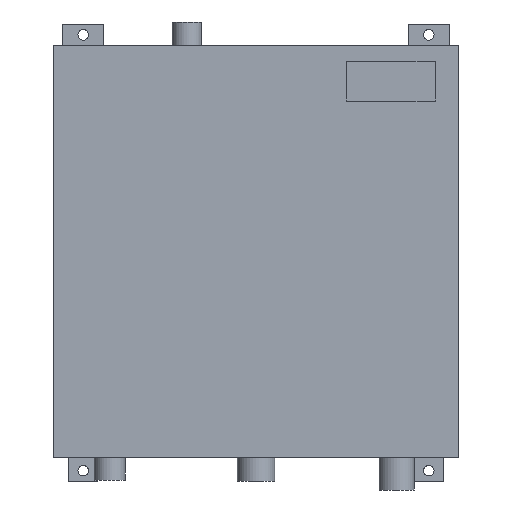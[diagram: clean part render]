
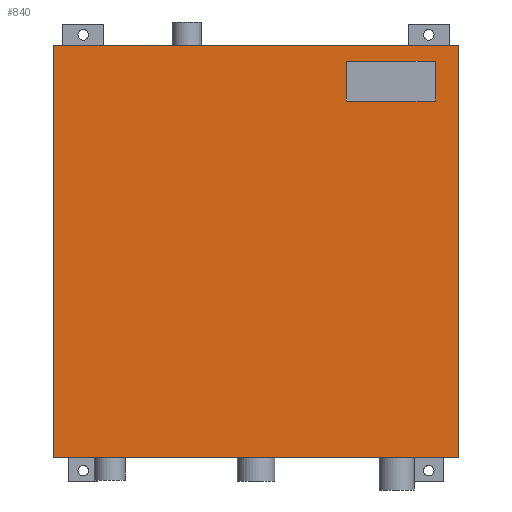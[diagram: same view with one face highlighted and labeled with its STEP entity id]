
A CAD part, front view. The second image highlights one B-rep face of the part: STEP entity #840.
In plain terms, the highlighted planar face has unit normal (0, -1, 0).
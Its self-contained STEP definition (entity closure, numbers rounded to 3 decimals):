
#225=ORIENTED_EDGE('',*,*,#270,.T.);
#226=ORIENTED_EDGE('',*,*,#263,.T.);
#227=ORIENTED_EDGE('',*,*,#266,.T.);
#228=ORIENTED_EDGE('',*,*,#268,.T.);
#229=ORIENTED_EDGE('',*,*,#357,.T.);
#230=ORIENTED_EDGE('',*,*,#354,.T.);
#231=ORIENTED_EDGE('',*,*,#358,.F.);
#232=ORIENTED_EDGE('',*,*,#359,.T.);
#263=EDGE_CURVE('',#369,#370,#443,.T.);
#266=EDGE_CURVE('',#370,#371,#446,.T.);
#268=EDGE_CURVE('',#371,#372,#448,.T.);
#270=EDGE_CURVE('',#372,#369,#450,.T.);
#354=EDGE_CURVE('',#432,#433,#519,.T.);
#357=EDGE_CURVE('',#434,#432,#522,.T.);
#358=EDGE_CURVE('',#435,#433,#523,.T.);
#359=EDGE_CURVE('',#435,#434,#524,.T.);
#369=VERTEX_POINT('',#1164);
#370=VERTEX_POINT('',#1165);
#371=VERTEX_POINT('',#1170);
#372=VERTEX_POINT('',#1174);
#432=VERTEX_POINT('',#1357);
#433=VERTEX_POINT('',#1358);
#434=VERTEX_POINT('',#1363);
#435=VERTEX_POINT('',#1365);
#443=LINE('',#1163,#531);
#446=LINE('',#1169,#534);
#448=LINE('',#1173,#536);
#450=LINE('',#1177,#538);
#519=LINE('',#1356,#607);
#522=LINE('',#1362,#610);
#523=LINE('',#1364,#611);
#524=LINE('',#1366,#612);
#531=VECTOR('',#938,1000.);
#534=VECTOR('',#943,1000.);
#536=VECTOR('',#947,1000.);
#538=VECTOR('',#951,1000.);
#607=VECTOR('',#1122,1000.);
#610=VECTOR('',#1127,1000.);
#611=VECTOR('',#1128,1000.);
#612=VECTOR('',#1129,1000.);
#672=EDGE_LOOP('',(#225,#226,#227,#228));
#673=EDGE_LOOP('',(#229,#230,#231,#232));
#744=FACE_BOUND('',#672,.T.);
#745=FACE_BOUND('',#673,.T.);
#793=PLANE('',#917);
#840=ADVANCED_FACE('',(#744,#745),#793,.T.);
#917=AXIS2_PLACEMENT_3D('',#1361,#1125,#1126);
#938=DIRECTION('',(-1.,0.,0.));
#943=DIRECTION('',(0.,0.,1.));
#947=DIRECTION('',(1.,0.,0.));
#951=DIRECTION('',(0.,0.,-1.));
#1122=DIRECTION('',(-1.,0.,0.));
#1125=DIRECTION('',(0.,-1.,0.));
#1126=DIRECTION('',(0.,0.,-1.));
#1127=DIRECTION('',(0.,0.,1.));
#1128=DIRECTION('',(0.,0.,1.));
#1129=DIRECTION('',(1.,0.,0.));
#1163=CARTESIAN_POINT('',(115.,-230.,302.535));
#1164=CARTESIAN_POINT('',(152.965,-230.,302.535));
#1165=CARTESIAN_POINT('',(77.035,-230.,302.535));
#1169=CARTESIAN_POINT('',(77.035,-230.,319.5));
#1170=CARTESIAN_POINT('',(77.035,-230.,336.465));
#1173=CARTESIAN_POINT('',(115.,-230.,336.465));
#1174=CARTESIAN_POINT('',(152.965,-230.,336.465));
#1177=CARTESIAN_POINT('',(152.965,-230.,319.5));
#1356=CARTESIAN_POINT('',(0.,-230.,350.));
#1357=CARTESIAN_POINT('',(173.,-230.,350.));
#1358=CARTESIAN_POINT('',(-173.,-230.,350.));
#1361=CARTESIAN_POINT('',(0.,-230.,-2.));
#1362=CARTESIAN_POINT('',(173.,-230.,-2.));
#1363=CARTESIAN_POINT('',(173.,-230.,-2.));
#1364=CARTESIAN_POINT('',(-173.,-230.,-2.));
#1365=CARTESIAN_POINT('',(-173.,-230.,-2.));
#1366=CARTESIAN_POINT('',(0.,-230.,-2.));
